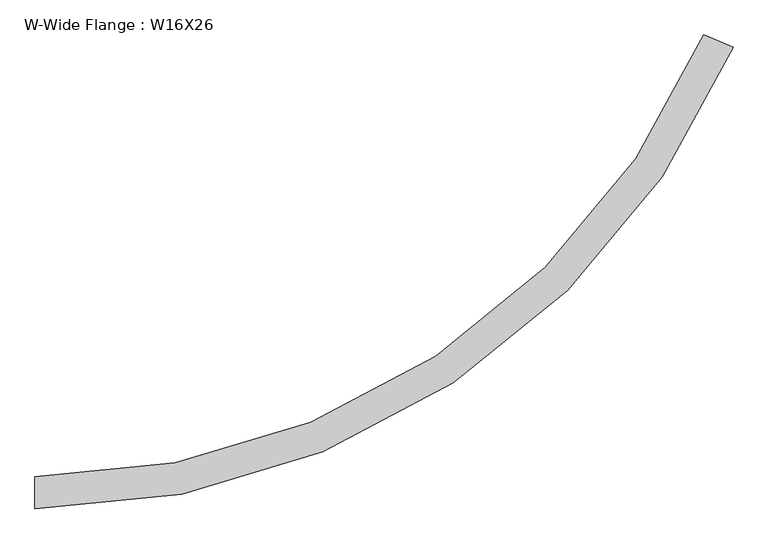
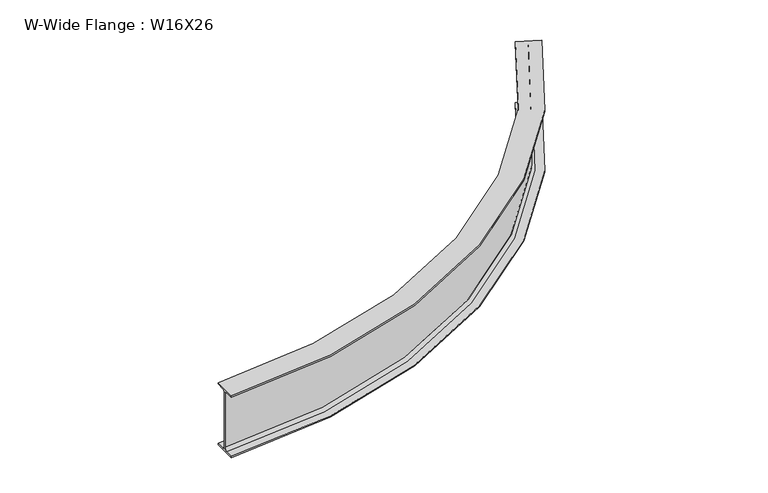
"""IFC4 building model written with IfcOpenShell, lengths in millimetres: beam geometry, W-Wide Flange : W16X26."""

from ifc_helpers import new_model, si_unit, point, frame, origin, place, context, project, spatial, polyline, circle_curve, ellipse_curve, trimmed, source, transform, mapped, element, save
from ifc_brep_helpers import plane_surface, cylinder_surface, revolved_surface, advanced_brep


def w_wide_flange_w16x26_8902d683(model_context):
    return source(origin(), model_context, "Body", "AdvancedBrep", [
        advanced_brep(
        [(3047.7966024, 1943.1127488, -190.5496094), (3047.7966024, 1943.1127488, -199.2808594), (2919.3102414, 1997.9520143, -199.2808594), (2919.3102414, 1997.9520143, -190.5496094), (2963.842446, 1978.9452234, -190.5496094), (2980.6332773, 1971.7787285, -172.2933594), (2980.6332773, 1971.7787285, 172.2933594), (2963.842446, 1978.9452234, 190.5496094), (2919.3102414, 1997.9520143, 190.5496094), (2919.3102414, 1997.9520143, 199.2808594), (3047.7966024, 1943.1127488, 199.2808594), (3047.7966024, 1943.1127488, 190.5496094), (3003.2643977, 1962.1195397, 190.5496094), (2986.4735664, 1969.2860346, 172.2933594), (2986.4735664, 1969.2860346, -172.2933594), (3003.2643977, 1962.1195397, -190.5496094), (0.0, -69.85, -190.5496094), (0.0, -21.43125, -190.5496094), (0.0, -3.175, -172.2933594), (0.0, -3.175, 172.2933594), (0.0, -21.43125, 190.5496094), (0.0, -69.85, 190.5496094), (0.0, -69.85, 199.2808594), (0.0, 69.85, 199.2808594), (0.0, 69.85, 190.5496094), (0.0, 21.43125, 190.5496094), (0.0, 3.175, 172.2933594), (0.0, 3.175, -172.2933594), (0.0, 21.43125, -190.5496094), (0.0, 69.85, -190.5496094), (0.0, 69.85, -199.2808594), (0.0, -69.85, -199.2808594)],
        [
            (0, 1),
            (1, 2),
            (2, 3),
            (3, 4),
            (4, 5, circle_curve(frame((2963.842446, 1978.9452234, -172.2933594), z_axis=(-0.3925502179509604, -0.9197305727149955, 0.0), x_axis=(-0.9197305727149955, 0.3925502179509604, 0.0)), 18.25625)),
            (5, 6),
            (6, 7, circle_curve(frame((2963.842446, 1978.9452234, 172.2933594), z_axis=(-0.3925502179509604, -0.9197305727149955, 0.0), x_axis=(-0.9197305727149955, 0.3925502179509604, 0.0)), 18.25625)),
            (7, 8),
            (8, 9),
            (9, 10),
            (10, 11),
            (11, 12),
            (12, 13, circle_curve(frame((3003.2643977, 1962.1195397, 172.2933594), z_axis=(-0.3925502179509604, -0.9197305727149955, 0.0), x_axis=(-0.9197305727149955, 0.3925502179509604, 0.0)), 18.25625)),
            (13, 14),
            (14, 15, circle_curve(frame((3003.2643977, 1962.1195397, -172.2933594), z_axis=(-0.3925502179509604, -0.9197305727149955, 0.0), x_axis=(-0.9197305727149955, 0.3925502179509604, 0.0)), 18.25625)),
            (15, 0),
            (16, 17),
            (17, 18, circle_curve(frame((0.0, -21.43125, -172.2933594), z_axis=(1.0, 0.0, 0.0), x_axis=(0.0, 1.0, 0.0)), 18.25625)),
            (18, 19),
            (19, 20, circle_curve(frame((0.0, -21.43125, 172.2933594), z_axis=(1.0, 0.0, 0.0), x_axis=(0.0, 1.0, 0.0)), 18.25625)),
            (20, 21),
            (21, 22),
            (22, 23),
            (23, 24),
            (24, 25),
            (25, 26, circle_curve(frame((0.0, 21.43125, 172.2933594), z_axis=(1.0, 0.0, 0.0), x_axis=(0.0, 1.0, 0.0)), 18.25625)),
            (26, 27),
            (27, 28, circle_curve(frame((0.0, 21.43125, -172.2933594), z_axis=(1.0, 0.0, 0.0), x_axis=(0.0, 1.0, 0.0)), 18.25625)),
            (28, 29),
            (29, 30),
            (30, 31),
            (31, 16),
            (15, 17, circle_curve(frame((0.0, 3243.9428571, -190.5496094), z_axis=(0.0, 0.0, -1.0), x_axis=(-1.0, 0.0, 0.0)), 3265.3741071)),
            (16, 0, circle_curve(frame((0.0, 3243.9428571, -190.5496094), z_axis=(0.0, 0.0, 1.0), x_axis=(-1.0, 0.0, 0.0)), 3313.7928571)),
            (14, 18, circle_curve(frame((0.0, 3243.9428571, -172.2933594), z_axis=(0.0, 0.0, -1.0), x_axis=(-1.0, 0.0, 0.0)), 3247.1178571)),
            (13, 19, circle_curve(frame((0.0, 3243.9428571, 172.2933594), z_axis=(0.0, 0.0, -1.0), x_axis=(-1.0, 0.0, 0.0)), 3247.1178571)),
            (12, 20, circle_curve(frame((0.0, 3243.9428571, 190.5496094), z_axis=(0.0, 0.0, -1.0), x_axis=(-1.0, 0.0, 0.0)), 3265.3741071)),
            (11, 21, circle_curve(frame((0.0, 3243.9428571, 190.5496094), z_axis=(0.0, 0.0, -1.0), x_axis=(-1.0, 0.0, 0.0)), 3313.7928571)),
            (10, 22, circle_curve(frame((0.0, 3243.9428571, 199.2808594), z_axis=(0.0, 0.0, -1.0), x_axis=(-1.0, 0.0, 0.0)), 3313.7928571)),
            (9, 23, circle_curve(frame((0.0, 3243.9428571, 199.2808594), z_axis=(0.0, 0.0, -1.0), x_axis=(-1.0, 0.0, 0.0)), 3174.0928571)),
            (8, 24, circle_curve(frame((0.0, 3243.9428571, 190.5496094), z_axis=(0.0, 0.0, -1.0), x_axis=(-1.0, 0.0, 0.0)), 3174.0928571)),
            (7, 25, circle_curve(frame((0.0, 3243.9428571, 190.5496094), z_axis=(0.0, 0.0, -1.0), x_axis=(-1.0, 0.0, 0.0)), 3222.5116071)),
            (6, 26, circle_curve(frame((0.0, 3243.9428571, 172.2933594), z_axis=(0.0, 0.0, -1.0), x_axis=(-1.0, 0.0, 0.0)), 3240.7678571)),
            (5, 27, circle_curve(frame((0.0, 3243.9428571, -172.2933594), z_axis=(0.0, 0.0, -1.0), x_axis=(-1.0, 0.0, 0.0)), 3240.7678571)),
            (4, 28, circle_curve(frame((0.0, 3243.9428571, -190.5496094), z_axis=(0.0, 0.0, -1.0), x_axis=(-1.0, 0.0, 0.0)), 3222.5116071)),
            (3, 29, circle_curve(frame((0.0, 3243.9428571, -190.5496094), z_axis=(0.0, 0.0, -1.0), x_axis=(-1.0, 0.0, 0.0)), 3174.0928571)),
            (2, 30, circle_curve(frame((0.0, 3243.9428571, -199.2808594), z_axis=(0.0, 0.0, -1.0), x_axis=(-1.0, 0.0, 0.0)), 3174.0928571)),
            (1, 31, circle_curve(frame((0.0, 3243.9428571, -199.2808594), z_axis=(0.0, 0.0, -1.0), x_axis=(-1.0, 0.0, 0.0)), 3313.7928571)),
        ],
        [
            plane_surface(frame((2983.5534219, 1970.5323816, 0.0), z_axis=(0.39255021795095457, 0.9197305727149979, 0.0), x_axis=(0.0, 0.0, 1.0))),
            plane_surface(frame((0.0, 0.0, 0.0), z_axis=(-1.0, 0.0, 0.0), x_axis=(0.0, 0.0, 1.0))),
            plane_surface(frame((0.0, 3243.9428571, -190.5496094), z_axis=(0.0, 0.0, 1.0), x_axis=(-1.0, 0.0, 0.0))),
            revolved_surface(trimmed(ellipse_curve(frame((-3265.3741071, 3243.9428571, -172.2933594), z_axis=(0.0, 1.0, 0.0), x_axis=(1.0, 0.0, 0.0)), 18.25625, 18.25625), [point((-3247.1178571, 3243.9428571, -172.2933594))], [point((-3265.3741071, 3243.9428571, -190.5496094))], True, "CARTESIAN"), (0.0, 3243.9428571, 0.0), (0.0, 0.0, -1.0)),
            cylinder_surface(frame((0.0, 3243.9428571, 0.0), z_axis=(0.0, 0.0, -1.0), x_axis=(-1.0, 0.0, 0.0)), 3247.1178571),
            revolved_surface(trimmed(ellipse_curve(frame((-3265.3741071, 3243.9428571, 172.2933594), z_axis=(0.0, 1.0, 0.0), x_axis=(1.0, 0.0, 0.0)), 18.25625, 18.25625), [point((-3265.3741071, 3243.9428571, 190.5496094))], [point((-3247.1178571, 3243.9428571, 172.2933594))], True, "CARTESIAN"), (0.0, 3243.9428571, 0.0), (0.0, 0.0, -1.0)),
            plane_surface(frame((0.0, 3243.9428571, 190.5496094), z_axis=(0.0, 0.0, -1.0), x_axis=(-1.0, 0.0, 0.0))),
            cylinder_surface(frame((0.0, 3243.9428571, 0.0), z_axis=(0.0, 0.0, -1.0), x_axis=(-1.0, 0.0, 0.0)), 3313.7928571),
            plane_surface(frame((0.0, 3243.9428571, 199.2808594), z_axis=(0.0, 0.0, 1.0), x_axis=(-1.0, 0.0, 0.0))),
            revolved_surface(polyline([(-3174.0928571, 3243.9428571, 190.5496094), (-3174.0928571, 3243.9428571, 199.2808594)]), (0.0, 3243.9428571, 0.0), (0.0, 0.0, -1.0)),
            revolved_surface(trimmed(ellipse_curve(frame((-3222.5116071, 3243.9428571, 172.2933594), z_axis=(0.0, 1.0, 0.0), x_axis=(1.0, 0.0, 0.0)), 18.25625, 18.25625), [point((-3240.7678571, 3243.9428571, 172.2933594))], [point((-3222.5116071, 3243.9428571, 190.5496094))], True, "CARTESIAN"), (0.0, 3243.9428571, 0.0), (0.0, 0.0, -1.0)),
            revolved_surface(polyline([(-3240.7678571, 3243.9428571, -172.2933594), (-3240.7678571, 3243.9428571, 172.2933594)]), (0.0, 3243.9428571, 0.0), (0.0, 0.0, -1.0)),
            revolved_surface(trimmed(ellipse_curve(frame((-3222.5116071, 3243.9428571, -172.2933594), z_axis=(0.0, 1.0, 0.0), x_axis=(1.0, 0.0, 0.0)), 18.25625, 18.25625), [point((-3222.5116071, 3243.9428571, -190.5496094))], [point((-3240.7678571, 3243.9428571, -172.2933594))], True, "CARTESIAN"), (0.0, 3243.9428571, 0.0), (0.0, 0.0, -1.0)),
            revolved_surface(polyline([(-3174.0928571, 3243.9428571, -199.2808594), (-3174.0928571, 3243.9428571, -190.5496094)]), (0.0, 3243.9428571, 0.0), (0.0, 0.0, -1.0)),
            plane_surface(frame((0.0, 3243.9428571, -199.2808594), z_axis=(0.0, 0.0, -1.0), x_axis=(-1.0, 0.0, 0.0))),
        ],
        [
            (0, [[1, 2, 3, 4, 5, 6, 7, 8, 9, 10, 11, 12, 13, 14, 15, 16]]),
            (1, [[17, 18, 19, 20, 21, 22, 23, 24, 25, 26, 27, 28, 29, 30, 31, 32]]),
            (2, [[33, -17, 34, -16]]),
            (3, [[35, -18, -33, -15]]),
            (4, [[36, -19, -35, -14]]),
            (5, [[37, -20, -36, -13]]),
            (6, [[38, -21, -37, -12]]),
            (7, [[39, -22, -38, -11]]),
            (8, [[40, -23, -39, -10]]),
            (9, [[41, -24, -40, -9]]),
            (6, [[42, -25, -41, -8]]),
            (10, [[43, -26, -42, -7]]),
            (11, [[44, -27, -43, -6]]),
            (12, [[45, -28, -44, -5]]),
            (2, [[46, -29, -45, -4]]),
            (13, [[47, -30, -46, -3]]),
            (14, [[48, -31, -47, -2]]),
            (7, [[-34, -32, -48, -1]]),
        ],
    ),
    ])


if __name__ == "__main__":
    model = new_model("IFC4")
    model_context = context("Model", 3, world=origin())
    ifc_project = project(units=[si_unit("LENGTHUNIT", "METRE", prefix="MILLI")], contexts=[model_context])
    site = spatial("IfcSite", under=ifc_project)
    building = spatial("IfcBuilding", under=site)
    placement = place(None, origin())
    w_wide_flange_w16x26_shape = w_wide_flange_w16x26_8902d683(model_context)
    element("IfcBeam", 1, ObjectType="W-Wide Flange : W16X26", at=placement, inside=building, context=model_context, shape_type="MappedRepresentation", body=[
        mapped(w_wide_flange_w16x26_shape, transform((0.0, 0.0, 0.0), x_axis=(1.0, 0.0, 0.0), y_axis=(0.0, 1.0, 0.0), z_axis=(0.0, 0.0, 1.0))),
    ])
    save(model, "model.ifc")
